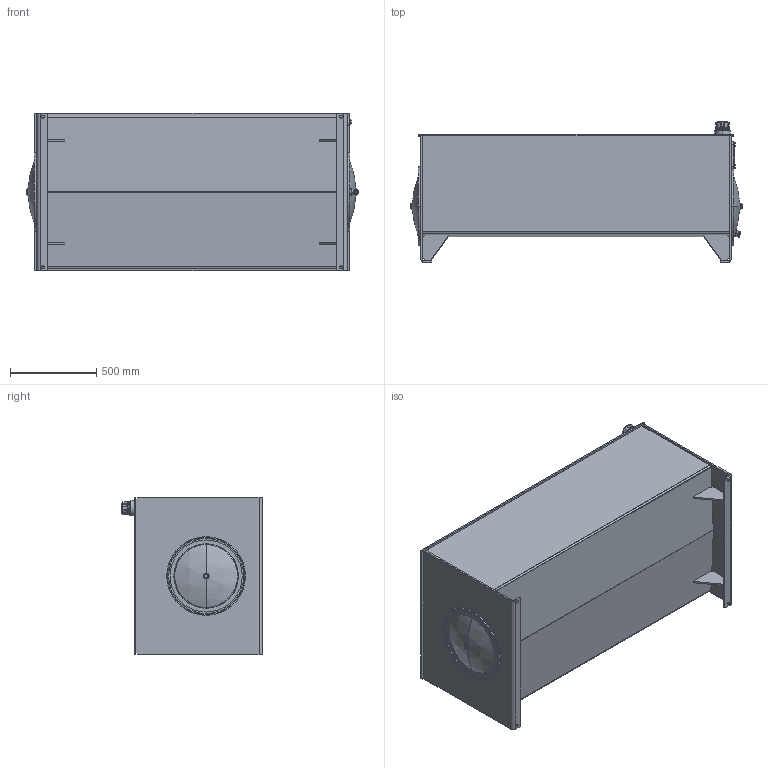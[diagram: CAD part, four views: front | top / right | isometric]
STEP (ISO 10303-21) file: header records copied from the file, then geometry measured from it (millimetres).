
FILE_DESCRIPTION (( 'STEP AP214' ), '1' );
FILE_NAME ('RJIC200-FT.STEP', '2019-01-28T15:14:58', ( 'Windows User' ), ( '' ), 'SwSTEP 2.0', 'SolidWorks 2018', '' );
FILE_SCHEMA (( 'AUTOMOTIVE_DESIGN' ));
Length unit declared in the file: inch
Products named in the file (24): REC18KX; BHS5020-11216-B_92865A798; FB-C-H_FB-H008W; RJIC200-REND_RJIC200-REND; REC18CN; RHJ-PLUG-016; REC500-B; Weld Riser; SLLG-05T-C; RJIC200-BAFFLE_RJIC200-BAFFLE; REC18G; REC500-W; RJIC200-TOP_RJIC200-TOP; FB-F008_FB-F-008; RJIC-GUSSET_.375; PPH024-14_4534K45; RJIC200-LEND_RJIC200-LEND; RHJ-PLUG-200; REC18KN; RJIC200-BODY_RJIC200-BODY; FB-H008W; RJIC200-FT; REC18CX; FB-S-W
Assembly tree (25 placements, depth 3):
  RHJ-PLUG-016
  REC500-W
  RHJ-PLUG-200
  RJIC200-FT
    RJIC200-BODY_RJIC200-BODY
    RJIC200-REND_RJIC200-REND
    RJIC200-LEND_RJIC200-LEND
    RJIC200-BAFFLE_RJIC200-BAFFLE
    RJIC200-TOP_RJIC200-TOP
    RJIC-GUSSET_.375  x4
    Weld Riser
    REC18KN
      REC18CN
      BHS5020-11216-B_92865A798
      REC500-B
      PPH024-14_4534K45
      REC18G
    REC18KX
      REC18CX
      BHS5020-11216-B_92865A798
      REC500-B
    SLLG-05T-C
    FB-H008W
      FB-F008_FB-F-008
      FB-S-W
      FB-C-H_FB-H008W
Bounding box: 1928.65 x 821.31 x 914.4 mm (x, y, z)
Volume: 49618531.5 mm3; surface area: 16440170.1 mm2
Topology: 26 solids, 26 shells, 1003 faces, 2359 edges, 1405 vertices
Faces by surface type: cylinder 356, plane 323, torus 94, bspline 90, cone 84, sphere 56
Entity records: 32961 total; most frequent: CARTESIAN_POINT 9440, DIRECTION 4754, ORIENTED_EDGE 4348, EDGE_CURVE 2174, AXIS2_PLACEMENT_3D 1928, VERTEX_POINT 1300, EDGE_LOOP 1058, CIRCLE 1050
